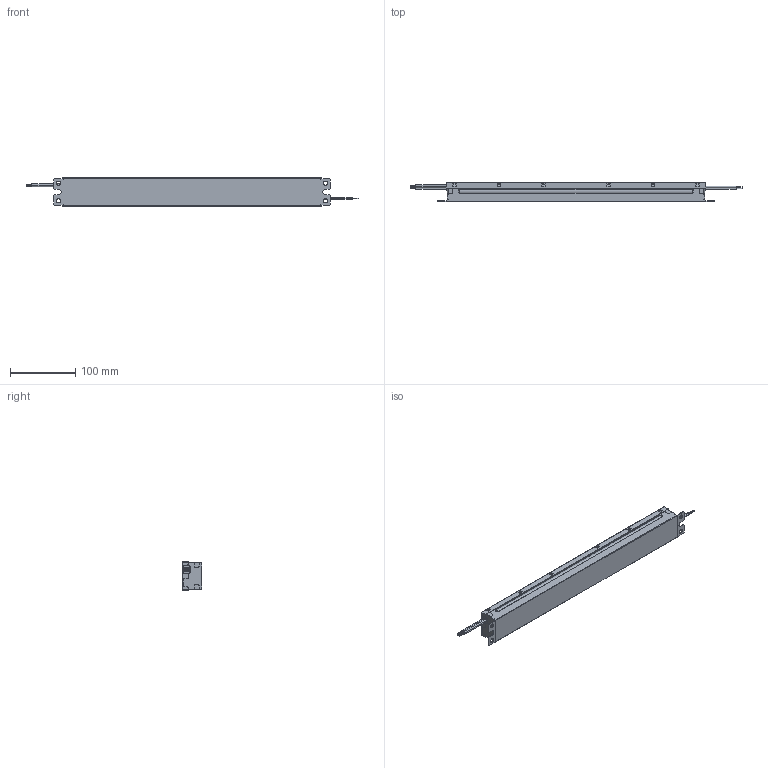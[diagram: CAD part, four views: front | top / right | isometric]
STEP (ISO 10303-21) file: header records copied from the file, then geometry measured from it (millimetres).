
FILE_DESCRIPTION (( 'STEP AP203' ), '1' );
FILE_NAME ('3D_USVI-180012FA.STEP', '2019-03-15T07:33:11', ( '' ), ( '' ), 'SwSTEP 2.0', 'SolidWorks 2016', '' );
FILE_SCHEMA (( 'CONFIG_CONTROL_DESIGN' ));
Length unit declared in the file: millimetre
Products named in the file (9): sr-6wire; Yellow wire_蕼偞; SR (2 Wires); 3D_USVI-180012FA; Black wire_蕼偞; Base_F Can_蕼偞; Base Side_F Can_Input_蕼偞; Base Body_F Can_蕼偞; Cover_F Can_蕼偞
Assembly tree (15 placements, depth 3):
  3D_USVI-180012FA
    Base_F Can_蕼偞
      Base Body_F Can_蕼偞
      Base Side_F Can_Input_蕼偞  x2
    Cover_F Can_蕼偞
    SR (2 Wires)
    sr-6wire
    Black wire_蕼偞  x2
    Yellow wire_蕼偞  x6
Bounding box: 508.8 x 30 x 43 mm (x, y, z)
Volume: 46653.3 mm3; surface area: 139382.7 mm2
Topology: 14 solids, 14 shells, 698 faces, 1794 edges, 1136 vertices
Faces by surface type: plane 499, cylinder 183, sphere 8, torus 8
Entity records: 19283 total; most frequent: CARTESIAN_POINT 3171, ORIENTED_EDGE 3120, DIRECTION 3078, EDGE_CURVE 1560, VECTOR 1256, LINE 1256, VERTEX_POINT 988, AXIS2_PLACEMENT_3D 911
